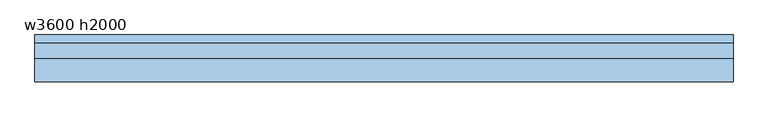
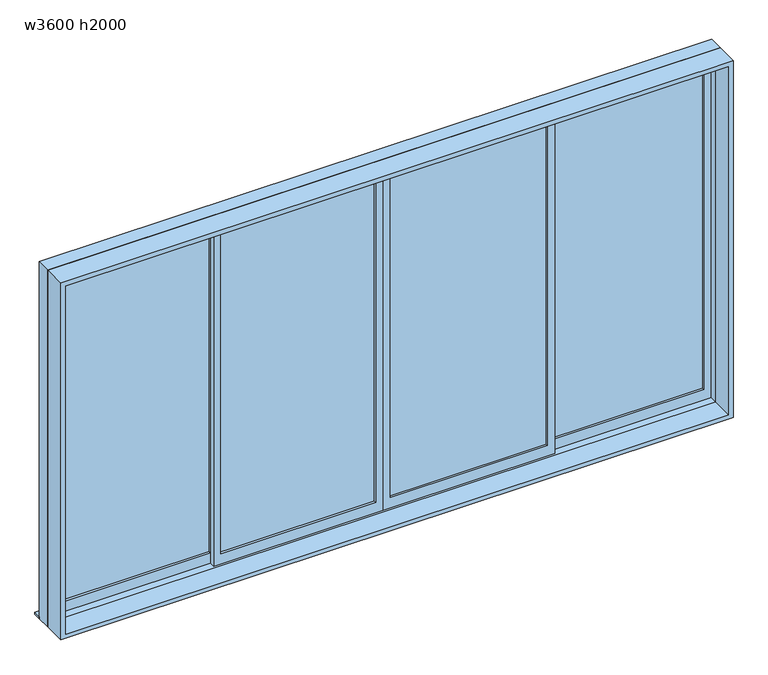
"""IFC4 building model written with IfcOpenShell, lengths in millimetres: window geometry, 窓 - 引違い掃出 4 枚 2 溝 - 内付 : w3600 h2000."""

import ifcopenshell
import ifcopenshell.guid

model = None  # the IFC model being written
_history = None  # IfcOwnerHistory: only IFC2X3 demands one
_inside = {}  # id of a spatial element -> (the spatial element, [elements in it])
_under = {}  # id of a project, library or spatial element -> (it, [spatial elements below it])
_declared = {}  # id of a project -> (the project, [libraries it declares])
_typed = {}  # id of a type object -> (the type object, [elements of that type])
_made_of = {}  # id of a material, layer set ... -> (it, [elements and type objects made of it])


def new_model(schema):
    """Start an empty IFC model of exactly this schema.

    Asked for "IFC4X3", IfcOpenShell would pick the latest addendum, in which some entities
    have other attributes; the version numbers below select the first issue.
    IFC2X3 requires an IfcOwnerHistory on every rooted entity: one is made here for all.
    """
    global model, _history
    if schema == "IFC4X3":
        model = ifcopenshell.file(schema_version=(4, 3, 0, 0))
    else:
        model = ifcopenshell.file(schema=schema)
    _inside.clear()
    _under.clear()
    _declared.clear()
    _typed.clear()
    _made_of.clear()
    _history = None
    if model.schema == "IFC2X3":
        org = make("IfcOrganization", Name="unknown")
        user = make(
            "IfcPersonAndOrganization",
            ThePerson=make("IfcPerson", FamilyName="unknown"),
            TheOrganization=org,
        )
        app = make(
            "IfcApplication",
            ApplicationDeveloper=org,
            Version="unknown",
            ApplicationFullName="unknown",
            ApplicationIdentifier="unknown",
        )
        _history = make(
            "IfcOwnerHistory",
            OwningUser=user,
            OwningApplication=app,
            ChangeAction="ADDED",
            CreationDate=0,
        )
    return model


def make(cls, **values):
    """One entity of the class cls with the attributes given. An attribute that is None is left unset."""
    return model.create_entity(
        cls, **{name: value for name, value in values.items() if value is not None}
    )


def rooted(cls, **values):
    """An entity with a GlobalId (a new one), such as an element, a storey or a relation."""
    return make(cls, GlobalId=ifcopenshell.guid.new(), OwnerHistory=_history, **values)


def si_unit(unit_type, name, prefix=None):
    """IfcSIUnit, for example si_unit("LENGTHUNIT", "METRE", prefix="MILLI")."""
    return make("IfcSIUnit", UnitType=unit_type, Prefix=prefix, Name=name)


def assignment(units):
    """IfcUnitAssignment: the units of a project."""
    return None if units is None else make("IfcUnitAssignment", Units=units)


def point(xyz):
    """IfcCartesianPoint."""
    return None if xyz is None else make("IfcCartesianPoint", Coordinates=xyz)


def direction(xyz):
    """IfcDirection."""
    return None if xyz is None else make("IfcDirection", DirectionRatios=xyz)


def frame(location, z_axis=None, x_axis=None):
    """IfcAxis2Placement3D, a coordinate frame: its origin and axes. An axis left out is left unset."""
    return make(
        "IfcAxis2Placement3D",
        Location=point(location),
        Axis=direction(z_axis),
        RefDirection=direction(x_axis),
    )


def origin():
    """The frame at (0, 0, 0) with its axes left unset."""
    return frame((0.0, 0.0, 0.0))


def origin_with_axes():
    """The frame at (0, 0, 0) with the z axis (0, 0, 1) and the x axis (1, 0, 0) written out."""
    return frame((0.0, 0.0, 0.0), z_axis=(0.0, 0.0, 1.0), x_axis=(1.0, 0.0, 0.0))


def place(relative_to, where):
    """IfcLocalPlacement: puts the frame where relative to a parent placement (None: the world)."""
    return make(
        "IfcLocalPlacement", PlacementRelTo=relative_to, RelativePlacement=where
    )


def context(
    kind, dimensions, precision=None, world=None, true_north=None, identifier=None
):
    """IfcGeometricRepresentationContext, for example the 3D "Model" context."""
    return make(
        "IfcGeometricRepresentationContext",
        ContextIdentifier=identifier,
        ContextType=kind,
        CoordinateSpaceDimension=dimensions,
        Precision=precision,
        WorldCoordinateSystem=world,
        TrueNorth=true_north,
    )


def project(units=None, contexts=None):
    """IfcProject with its units and contexts."""
    return rooted(
        "IfcProject",
        Name="project",
        RepresentationContexts=contexts,
        UnitsInContext=assignment(units),
    )


def spatial(cls, under=None, at=None, **own):
    """A site, building, storey or space (cls), placed at a placement, below another one or the project."""
    s = rooted(cls, ObjectPlacement=at, **own)
    if under is not None:
        _under.setdefault(under.id(), (under, []))[1].append(s)
    return s


def polyline(points):
    """IfcPolyline through the points."""
    return make("IfcPolyline", Points=[point(p) for p in points])


def outline(outer, holes=None, kind="AREA"):
    """IfcArbitraryClosedProfileDef: a profile drawn as a closed curve; with holes, ...WithVoids."""
    if holes is None:
        return make("IfcArbitraryClosedProfileDef", ProfileType=kind, OuterCurve=outer)
    return make(
        "IfcArbitraryProfileDefWithVoids",
        ProfileType=kind,
        OuterCurve=outer,
        InnerCurves=holes,
    )


def extrude(swept, where, along, depth):
    """IfcExtrudedAreaSolid: the profile swept, set in the frame where, extruded along a direction by depth."""
    return make(
        "IfcExtrudedAreaSolid",
        SweptArea=swept,
        Position=where,
        ExtrudedDirection=direction(along),
        Depth=depth,
    )


def shape(context_of_items, identifier, shape_type, items):
    """IfcShapeRepresentation: the items that make up one representation, for example the "Body"."""
    return make(
        "IfcShapeRepresentation",
        ContextOfItems=context_of_items,
        RepresentationIdentifier=identifier,
        RepresentationType=shape_type,
        Items=items,
    )


def source(mapping_origin, context_of_items, identifier, shape_type, items):
    """IfcRepresentationMap: a shape defined once, which mapped items show again and again."""
    return make(
        "IfcRepresentationMap",
        MappingOrigin=mapping_origin,
        MappedRepresentation=shape(context_of_items, identifier, shape_type, items),
    )


def transform(
    local_origin,
    x_axis=None,
    y_axis=None,
    z_axis=None,
    scale=None,
    scale2=None,
    scale3=None,
    uniform=True,
):
    """IfcCartesianTransformationOperator3D, or its non-uniform kind. x_axis, y_axis, z_axis: its Axis1, 2, 3."""
    if uniform:
        return make(
            "IfcCartesianTransformationOperator3D",
            Axis1=direction(x_axis),
            Axis2=direction(y_axis),
            LocalOrigin=point(local_origin),
            Scale=scale,
            Axis3=direction(z_axis),
        )
    return make(
        "IfcCartesianTransformationOperator3DnonUniform",
        Axis1=direction(x_axis),
        Axis2=direction(y_axis),
        LocalOrigin=point(local_origin),
        Scale=scale,
        Axis3=direction(z_axis),
        Scale2=scale2,
        Scale3=scale3,
    )


def mapped(mapping_source, mapping_target):
    """IfcMappedItem: shows the shape of a source again, moved by a transform."""
    return make(
        "IfcMappedItem", MappingSource=mapping_source, MappingTarget=mapping_target
    )


def made_of(thing, what):
    """Note that an element or type object is made of a material, layer set ...; save() writes the relation."""
    if what is not None:
        _made_of.setdefault(what.id(), (what, []))[1].append(thing)
    return thing


def element(
    cls,
    number,
    at=None,
    inside=None,
    cuts=None,
    type_object=None,
    material=None,
    context=None,
    identifier="Body",
    shape_type=None,
    held_by="IfcProductDefinitionShape",
    body=None,
    shapes=None,
    **own,
):
    """One element of the class cls, such as IfcWall. Its Tag is "e" and its number.

    at: its placement. inside: the storey or other place that contains it. cuts: it is an
    opening in that element (IfcRelVoidsElement). A single representation is given by context,
    identifier, shape_type and body (its items); several are given by shapes. held_by: the class
    of the entity that holds the representations. save() writes the other relations.
    """
    e = rooted(cls, Tag="e%d" % number, ObjectPlacement=at, **own)
    if body is not None:
        shapes = [shape(context, identifier, shape_type, body)]
    if shapes is not None:
        e.Representation = make(held_by, Representations=shapes)
    if inside is not None:
        _inside.setdefault(inside.id(), (inside, []))[1].append(e)
    if cuts is not None:
        rooted(
            "IfcRelVoidsElement", RelatingBuildingElement=cuts, RelatedOpeningElement=e
        )
    if type_object is not None:
        _typed.setdefault(type_object.id(), (type_object, []))[1].append(e)
    return made_of(e, material)


def aggregate(whole, parts):
    """IfcRelAggregates: a whole, such as a stair, and the parts it consists of."""
    return rooted("IfcRelAggregates", RelatingObject=whole, RelatedObjects=parts)


def save(model, path):
    """Write the relations noted so far, then the file.

    IfcRelAggregates (storeys below a building ...), IfcRelContainedInSpatialStructure (elements
    in a storey), IfcRelDefinesByType, IfcRelAssociatesMaterial and IfcRelDeclares: one each for
    every whole, place, type object, material and project.
    """
    for whole, parts in _under.values():
        aggregate(whole, parts)
    for where, things in _inside.values():
        rooted(
            "IfcRelContainedInSpatialStructure",
            RelatedElements=things,
            RelatingStructure=where,
        )
    for kind, things in _typed.values():
        rooted("IfcRelDefinesByType", RelatedObjects=things, RelatingType=kind)
    for what, things in _made_of.values():
        rooted("IfcRelAssociatesMaterial", RelatedObjects=things, RelatingMaterial=what)
    for by, libraries in _declared.values():
        rooted("IfcRelDeclares", RelatingContext=by, RelatedDefinitions=libraries)
    model.write(path)


def w3600_h2000_fd93b6f9(model_context):
    return source(origin(), model_context, "Body", "SweptSolid", [
        extrude(outline(polyline([(0.0, -1825.0), (0.0, 1825.0), (2050.0, 1825.0), (2050.0, -1825.0), (0.0, -1825.0)]), holes=[polyline([(25.0, -1800.0), (2025.0, -1800.0), (2025.0, 1800.0), (25.0, 1800.0), (25.0, -1800.0)])]), frame((0.0, -20.0, 0.0), z_axis=(0.0, 1.0, 0.0), x_axis=(0.0, 0.0, 1.0)), (0.0, 0.0, 1.0), 80.0),
        extrude(outline(polyline([(0.0, 1825.0), (2050.0, 1825.0), (2050.0, -1825.0), (0.0, -1825.0), (0.0, 1825.0)]), holes=[polyline([(25.0, 1800.0), (25.0, -1800.0), (2025.0, -1800.0), (2025.0, 1800.0), (25.0, 1800.0)])]), frame((0.0, -142.5, 0.0), z_axis=(0.0, 1.0, 0.0), x_axis=(0.0, 0.0, 1.0)), (0.0, 0.0, 1.0), 122.5),
        extrude(outline(polyline([(25.0, -1800.0), (25.0, -880.0), (2025.0, -880.0), (2025.0, -1800.0), (25.0, -1800.0)]), holes=[polyline([(85.0, -1760.0), (1985.0, -1760.0), (1985.0, -920.0), (85.0, -920.0), (85.0, -1760.0)])]), frame((0.0, 20.0, 0.0), z_axis=(0.0, 1.0, 0.0), x_axis=(0.0, 0.0, 1.0)), (0.0, 0.0, 1.0), 30.0),
        extrude(outline(polyline([(2025.0, 1800.0), (2025.0, 892.5), (25.0, 892.5), (25.0, 1800.0), (2025.0, 1800.0)]), holes=[polyline([(1985.0, 1760.0), (85.0, 1760.0), (85.0, 932.5), (1985.0, 932.5), (1985.0, 1760.0)])]), frame((0.0, 20.0, 0.0), z_axis=(0.0, 1.0, 0.0), x_axis=(0.0, 0.0, 1.0)), (0.0, 0.0, 1.0), 30.0),
        extrude(outline(polyline([(-920.0, 32.5), (-1760.0, 32.5), (-1760.0, 37.5), (-920.0, 37.5), (-920.0, 32.5)])), frame((0.0, 0.0, 85.0), z_axis=(0.0, 0.0, 1.0), x_axis=(1.0, 0.0, 0.0)), (0.0, 0.0, 1.0), 1900.0),
        extrude(outline(polyline([(1760.0, 32.5), (932.5, 32.5), (932.5, 37.5), (1760.0, 37.5), (1760.0, 32.5)])), frame((0.0, 0.0, 85.0), z_axis=(0.0, 0.0, 1.0), x_axis=(1.0, 0.0, 0.0)), (0.0, 0.0, 1.0), 1900.0),
        extrude(outline(polyline([(2025.0, -920.0), (25.0, -920.0), (25.0, 0.0), (2025.0, 0.0), (2025.0, -920.0)]), holes=[polyline([(1985.0, -880.0), (1985.0, -40.0), (85.0, -40.0), (85.0, -880.0), (1985.0, -880.0)])]), frame((0.0, -10.0, 0.0), z_axis=(0.0, 1.0, 0.0), x_axis=(0.0, 0.0, 1.0)), (0.0, 0.0, 1.0), 30.0),
        extrude(outline(polyline([(-40.0, 2.5), (-880.0, 2.5), (-880.0, 7.5), (-40.0, 7.5), (-40.0, 2.5)])), frame((0.0, 0.0, 85.0), z_axis=(0.0, 0.0, 1.0), x_axis=(1.0, 0.0, 0.0)), (0.0, 0.0, 1.0), 1900.0),
        extrude(outline(polyline([(892.5, 2.5), (40.0, 2.5), (40.0, 7.5), (892.5, 7.5), (892.5, 2.5)])), frame((0.0, 0.0, 85.0), z_axis=(0.0, 0.0, 1.0), x_axis=(1.0, 0.0, 0.0)), (0.0, 0.0, 1.0), 1900.0),
        extrude(outline(polyline([(2025.0, 932.5), (2025.0, 0.0), (25.0, 0.0), (25.0, 932.5), (2025.0, 932.5)]), holes=[polyline([(1985.0, 40.0), (1985.0, 892.5), (85.0, 892.5), (85.0, 40.0), (1985.0, 40.0)])]), frame((0.0, -10.0, 0.0), z_axis=(0.0, 1.0, 0.0), x_axis=(0.0, 0.0, 1.0)), (0.0, 0.0, 1.0), 30.0),
        extrude(outline(polyline([(1825.0, 102.5), (1825.0, 60.0), (-1825.0, 60.0), (-1825.0, 102.5), (1825.0, 102.5)])), origin_with_axes(), (0.0, 0.0, 1.0), 10.0),
    ])


if __name__ == "__main__":
    model = new_model("IFC4")
    model_context = context("Model", 3, world=origin())
    ifc_project = project(units=[si_unit("LENGTHUNIT", "METRE", prefix="MILLI")], contexts=[model_context])
    site = spatial("IfcSite", under=ifc_project)
    building = spatial("IfcBuilding", under=site)
    placement = place(None, origin())
    w3600_h2000_shape = w3600_h2000_fd93b6f9(model_context)
    element("IfcWindow", 1, ObjectType="窓 - 引違い掃出 4 枚 2 溝 - 内付 : w3600 h2000", at=placement, inside=building, context=model_context, shape_type="MappedRepresentation", body=[
        mapped(w3600_h2000_shape, transform((0.0, 0.0, 0.0), x_axis=(1.0, 0.0, 0.0), y_axis=(0.0, 1.0, 0.0), z_axis=(0.0, 0.0, 1.0))),
    ])
    save(model, "model.ifc")
